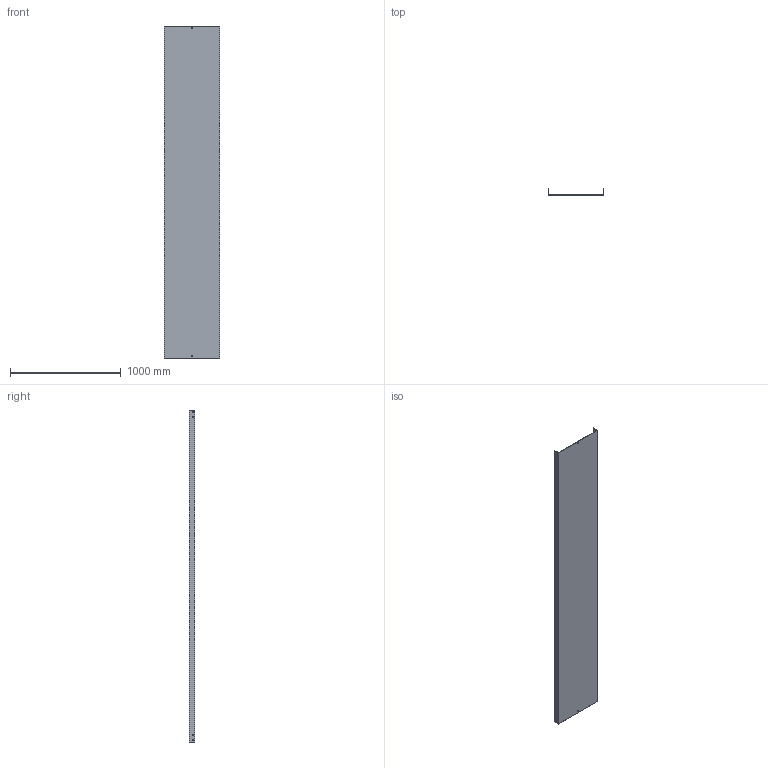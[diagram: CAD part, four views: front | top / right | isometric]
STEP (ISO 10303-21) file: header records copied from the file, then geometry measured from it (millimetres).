
FILE_DESCRIPTION (( 'STEP AP214' ), '1' );
FILE_NAME ('03B3B500.step', '2025-02-21T10:13:44', ( '' ), ( '' ), 'SwSTEP 2.0', 'SolidWorks 2023', '' );
FILE_SCHEMA (( 'AUTOMOTIVE_DESIGN' ));
Length unit declared in the file: millimetre
Products named in the file (1): 03B3B500
Bounding box: 504 x 52 x 3000 mm (x, y, z)
Volume: 6308130.5 mm3; surface area: 3631022 mm2
Topology: 1 solids, 1 shells, 50 faces, 144 edges, 96 vertices
Faces by surface type: plane 50
Entity records: 1671 total; most frequent: CARTESIAN_POINT 291, ORIENTED_EDGE 288, DIRECTION 246, LINE 144, EDGE_CURVE 144, VECTOR 144, VERTEX_POINT 96, EDGE_LOOP 70
